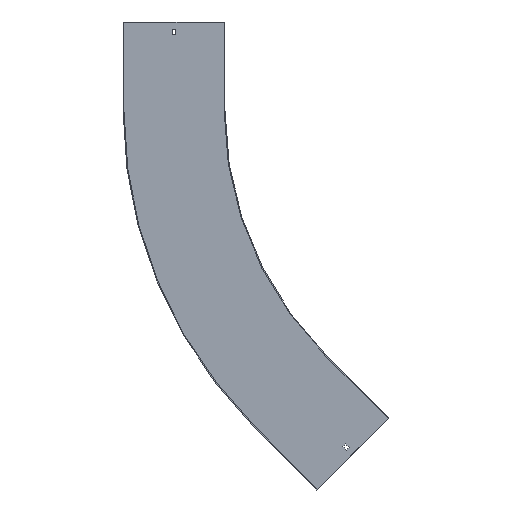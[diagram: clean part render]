
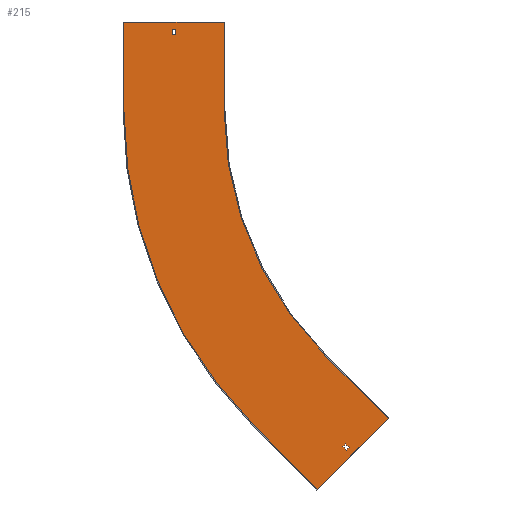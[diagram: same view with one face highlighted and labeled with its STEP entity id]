
A CAD part, front view. The second image highlights one B-rep face of the part: STEP entity #215.
In plain terms, the highlighted planar face has unit normal (0, -1, 0).
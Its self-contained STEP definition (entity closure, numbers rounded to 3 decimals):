
#2 = VERTEX_POINT ( 'NONE', #567 ) ;
#11 = VERTEX_POINT ( 'NONE', #250 ) ;
#18 = DIRECTION ( 'NONE',  ( 1., 0., 0. ) ) ;
#20 = CARTESIAN_POINT ( 'NONE',  ( -760., -1.5, 0. ) ) ;
#29 = DIRECTION ( 'NONE',  ( 0., 0., 1. ) ) ;
#35 = LINE ( 'NONE', #482, #103 ) ;
#46 = EDGE_CURVE ( 'NONE', #688, #507, #571, .T. ) ;
#66 = CARTESIAN_POINT ( 'NONE',  ( -383.782, -1.5, -566.216 ) ) ;
#71 = ORIENTED_EDGE ( 'NONE', *, *, #633, .F. ) ;
#75 = VECTOR ( 'NONE', #762, 1000. ) ;
#88 = CARTESIAN_POINT ( 'NONE',  ( -377.418, -1.5, -572.58 ) ) ;
#91 = VERTEX_POINT ( 'NONE', #167 ) ;
#98 = EDGE_CURVE ( 'NONE', #647, #688, #172, .T. ) ;
#103 = VECTOR ( 'NONE', #418, 1000. ) ;
#121 = FACE_BOUND ( 'NONE', #432, .T. ) ;
#122 = VERTEX_POINT ( 'NONE', #245 ) ;
#126 = FACE_BOUND ( 'NONE', #160, .T. ) ;
#127 = ORIENTED_EDGE ( 'NONE', *, *, #234, .F. ) ;
#138 = ORIENTED_EDGE ( 'NONE', *, *, #606, .T. ) ;
#139 = CARTESIAN_POINT ( 'NONE',  ( -537.401, -1.5, -537.401 ) ) ;
#144 = ORIENTED_EDGE ( 'NONE', *, *, #98, .F. ) ;
#148 = VERTEX_POINT ( 'NONE', #530 ) ;
#158 = DIRECTION ( 'NONE',  ( -0.707, 0., 0.707 ) ) ;
#160 = EDGE_LOOP ( 'NONE', ( #340, #804, #480, #138 ) ) ;
#164 = ORIENTED_EDGE ( 'NONE', *, *, #780, .F. ) ;
#165 = VECTOR ( 'NONE', #306, 1000. ) ;
#167 = CARTESIAN_POINT ( 'NONE',  ( -671.75, -1.5, 138. ) ) ;
#169 = EDGE_CURVE ( 'NONE', #823, #122, #854, .T. ) ;
#172 = LINE ( 'NONE', #426, #204 ) ;
#177 = VECTOR ( 'NONE', #267, 1000. ) ;
#185 = VERTEX_POINT ( 'NONE', #457 ) ;
#189 = CARTESIAN_POINT ( 'NONE',  ( 0., -1.5, 0. ) ) ;
#193 = AXIS2_PLACEMENT_3D ( 'NONE', #487, #561, #288 ) ;
#201 = DIRECTION ( 'NONE',  ( 0., 0., -1. ) ) ;
#204 = VECTOR ( 'NONE', #837, 1000. ) ;
#205 = DIRECTION ( 'NONE',  ( -0.707, 0., 0.707 ) ) ;
#208 = DIRECTION ( 'NONE',  ( -0.707, 0., -0.707 ) ) ;
#215 = ADVANCED_FACE ( 'NONE', ( #121, #800, #126 ), #269, .T. ) ;
#234 = EDGE_CURVE ( 'NONE', #596, #775, #334, .T. ) ;
#235 = DIRECTION ( 'NONE',  ( 0., 0., -1. ) ) ;
#241 = CARTESIAN_POINT ( 'NONE',  ( -590., -1.5, 150. ) ) ;
#245 = CARTESIAN_POINT ( 'NONE',  ( -678.25, -1.5, 129. ) ) ;
#249 = CARTESIAN_POINT ( 'NONE',  ( -590., -1.5, 150. ) ) ;
#250 = CARTESIAN_POINT ( 'NONE',  ( -382.014, -1.5, -577.176 ) ) ;
#259 = EDGE_CURVE ( 'NONE', #11, #596, #516, .T. ) ;
#265 = DIRECTION ( 'NONE',  ( 0., -1., 0. ) ) ;
#267 = DIRECTION ( 'NONE',  ( 0., 0., -1. ) ) ;
#269 = PLANE ( 'NONE',  #704 ) ;
#276 = CARTESIAN_POINT ( 'NONE',  ( 0., -1.5, 138. ) ) ;
#277 = VERTEX_POINT ( 'NONE', #353 ) ;
#288 = DIRECTION ( 'NONE',  ( 0., 0., -1. ) ) ;
#306 = DIRECTION ( 'NONE',  ( 0., 0., 1. ) ) ;
#316 = CARTESIAN_POINT ( 'NONE',  ( -474.999, -1.5, -474.999 ) ) ;
#324 = ORIENTED_EDGE ( 'NONE', *, *, #542, .F. ) ;
#331 = VECTOR ( 'NONE', #719, 1000. ) ;
#334 = LINE ( 'NONE', #316, #787 ) ;
#340 = ORIENTED_EDGE ( 'NONE', *, *, #366, .T. ) ;
#350 = ORIENTED_EDGE ( 'NONE', *, *, #385, .F. ) ;
#352 = LINE ( 'NONE', #636, #624 ) ;
#353 = CARTESIAN_POINT ( 'NONE',  ( -760., -1.5, 0. ) ) ;
#366 = EDGE_CURVE ( 'NONE', #148, #91, #755, .T. ) ;
#381 = VECTOR ( 'NONE', #208, 1000. ) ;
#384 = LINE ( 'NONE', #389, #165 ) ;
#385 = EDGE_CURVE ( 'NONE', #507, #635, #551, .T. ) ;
#388 = ORIENTED_EDGE ( 'NONE', *, *, #46, .F. ) ;
#389 = CARTESIAN_POINT ( 'NONE',  ( -678.25, -1.5, 0. ) ) ;
#401 = CARTESIAN_POINT ( 'NONE',  ( -310.066, -1.5, -522.198 ) ) ;
#408 = CARTESIAN_POINT ( 'NONE',  ( -671.75, -1.5, 129. ) ) ;
#418 = DIRECTION ( 'NONE',  ( 0.707, 0., -0.707 ) ) ;
#426 = CARTESIAN_POINT ( 'NONE',  ( -761.5, -1.5, 150. ) ) ;
#432 = EDGE_LOOP ( 'NONE', ( #127, #742, #797, #324 ) ) ;
#450 = CARTESIAN_POINT ( 'NONE',  ( -590., -1.5, 0. ) ) ;
#451 = CARTESIAN_POINT ( 'NONE',  ( 97.581, -1.5, -97.581 ) ) ;
#455 = LINE ( 'NONE', #845, #523 ) ;
#457 = CARTESIAN_POINT ( 'NONE',  ( -311.127, -1.5, -523.259 ) ) ;
#459 = CARTESIAN_POINT ( 'NONE',  ( -671.75, -1.5, 0. ) ) ;
#461 = CARTESIAN_POINT ( 'NONE',  ( 0., -1.5, 129. ) ) ;
#480 = ORIENTED_EDGE ( 'NONE', *, *, #169, .T. ) ;
#482 = CARTESIAN_POINT ( 'NONE',  ( -479.595, -1.5, -479.595 ) ) ;
#487 = CARTESIAN_POINT ( 'NONE',  ( 0., -1.5, 0. ) ) ;
#490 = ORIENTED_EDGE ( 'NONE', *, *, #522, .F. ) ;
#491 = ORIENTED_EDGE ( 'NONE', *, *, #550, .F. ) ;
#498 = CARTESIAN_POINT ( 'NONE',  ( 91.217, -1.5, -91.217 ) ) ;
#507 = VERTEX_POINT ( 'NONE', #450 ) ;
#516 = LINE ( 'NONE', #451, #331 ) ;
#522 = EDGE_CURVE ( 'NONE', #277, #647, #628, .T. ) ;
#523 = VECTOR ( 'NONE', #779, 1000. ) ;
#529 = LINE ( 'NONE', #401, #381 ) ;
#530 = CARTESIAN_POINT ( 'NONE',  ( -678.25, -1.5, 138. ) ) ;
#531 = EDGE_LOOP ( 'NONE', ( #144, #490, #491, #664, #164, #71, #350, #388 ) ) ;
#535 = AXIS2_PLACEMENT_3D ( 'NONE', #761, #566, #235 ) ;
#537 = CIRCLE ( 'NONE', #193, 760. ) ;
#542 = EDGE_CURVE ( 'NONE', #775, #751, #694, .T. ) ;
#550 = EDGE_CURVE ( 'NONE', #747, #277, #537, .T. ) ;
#551 = CIRCLE ( 'NONE', #535, 590. ) ;
#561 = DIRECTION ( 'NONE',  ( 0., 1., 0. ) ) ;
#562 = EDGE_CURVE ( 'NONE', #2, #747, #352, .T. ) ;
#565 = EDGE_CURVE ( 'NONE', #751, #11, #35, .T. ) ;
#566 = DIRECTION ( 'NONE',  ( 0., -1., 0. ) ) ;
#567 = CARTESIAN_POINT ( 'NONE',  ( -431.335, -1.5, -643.467 ) ) ;
#571 = LINE ( 'NONE', #241, #75 ) ;
#577 = VECTOR ( 'NONE', #18, 1000. ) ;
#579 = VECTOR ( 'NONE', #29, 1000. ) ;
#586 = CARTESIAN_POINT ( 'NONE',  ( -760., -1.5, 150. ) ) ;
#596 = VERTEX_POINT ( 'NONE', #88 ) ;
#606 = EDGE_CURVE ( 'NONE', #122, #148, #384, .T. ) ;
#624 = VECTOR ( 'NONE', #158, 1000. ) ;
#628 = LINE ( 'NONE', #20, #579 ) ;
#633 = EDGE_CURVE ( 'NONE', #635, #185, #455, .T. ) ;
#635 = VERTEX_POINT ( 'NONE', #723 ) ;
#636 = CARTESIAN_POINT ( 'NONE',  ( -431.335, -1.5, -643.467 ) ) ;
#647 = VERTEX_POINT ( 'NONE', #586 ) ;
#664 = ORIENTED_EDGE ( 'NONE', *, *, #562, .F. ) ;
#673 = CARTESIAN_POINT ( 'NONE',  ( -388.378, -1.5, -570.812 ) ) ;
#688 = VERTEX_POINT ( 'NONE', #249 ) ;
#694 = LINE ( 'NONE', #498, #801 ) ;
#704 = AXIS2_PLACEMENT_3D ( 'NONE', #189, #265, #201 ) ;
#719 = DIRECTION ( 'NONE',  ( 0.707, 0., 0.707 ) ) ;
#723 = CARTESIAN_POINT ( 'NONE',  ( -417.193, -1.5, -417.193 ) ) ;
#737 = EDGE_CURVE ( 'NONE', #91, #823, #767, .T. ) ;
#742 = ORIENTED_EDGE ( 'NONE', *, *, #259, .F. ) ;
#747 = VERTEX_POINT ( 'NONE', #139 ) ;
#751 = VERTEX_POINT ( 'NONE', #673 ) ;
#755 = LINE ( 'NONE', #276, #577 ) ;
#761 = CARTESIAN_POINT ( 'NONE',  ( 0., -1.5, 0. ) ) ;
#762 = DIRECTION ( 'NONE',  ( 0., 0., -1. ) ) ;
#767 = LINE ( 'NONE', #459, #177 ) ;
#775 = VERTEX_POINT ( 'NONE', #66 ) ;
#779 = DIRECTION ( 'NONE',  ( 0.707, 0., -0.707 ) ) ;
#780 = EDGE_CURVE ( 'NONE', #185, #2, #529, .T. ) ;
#787 = VECTOR ( 'NONE', #205, 1000. ) ;
#796 = DIRECTION ( 'NONE',  ( -1., 0., 0. ) ) ;
#797 = ORIENTED_EDGE ( 'NONE', *, *, #565, .F. ) ;
#799 = VECTOR ( 'NONE', #796, 1000. ) ;
#800 = FACE_OUTER_BOUND ( 'NONE', #531, .T. ) ;
#801 = VECTOR ( 'NONE', #824, 1000. ) ;
#804 = ORIENTED_EDGE ( 'NONE', *, *, #737, .T. ) ;
#823 = VERTEX_POINT ( 'NONE', #408 ) ;
#824 = DIRECTION ( 'NONE',  ( -0.707, 0., -0.707 ) ) ;
#837 = DIRECTION ( 'NONE',  ( 1., 0., 0. ) ) ;
#845 = CARTESIAN_POINT ( 'NONE',  ( -417.193, -1.5, -417.193 ) ) ;
#854 = LINE ( 'NONE', #461, #799 ) ;
